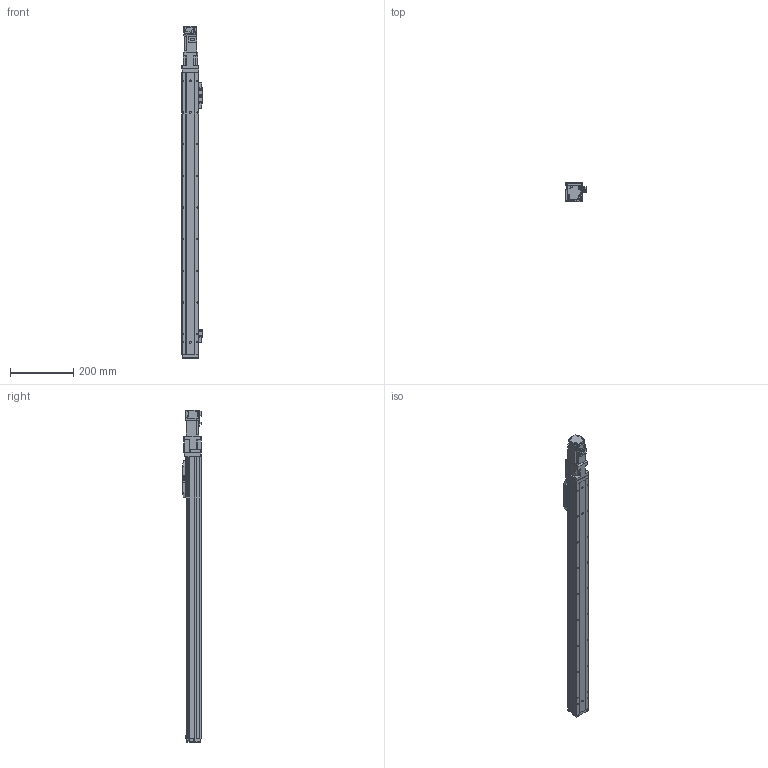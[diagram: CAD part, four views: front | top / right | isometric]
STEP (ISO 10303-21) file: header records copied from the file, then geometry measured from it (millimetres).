
FILE_DESCRIPTION (( 'STEP AP214' ), '1' );
FILE_NAME ('N_GRH5-750-BC-M10.step', '2025-03-14T09:34:22', ( '' ), ( '' ), 'SwSTEP 2.0', 'SolidWorks 2016', '' );
FILE_SCHEMA (( 'AUTOMOTIVE_DESIGN' ));
Length unit declared in the file: millimetre
Products named in the file (5): N_GRH5-GY-011^N_GRH5-750-BC-M10; N_GRH5-750-BC-M10; N_GRH5-BC-008^N_GRH5-750-BC-M10; HF-KP13_100W_Motor^N_GRH5-750-BC-M10; N_GRH5-GY-004^N_GRH5-750-BC-M10
Assembly tree (4 placements, depth 2):
  N_GRH5-750-BC-M10
    N_GRH5-GY-011^N_GRH5-750-BC-M10
    N_GRH5-GY-004^N_GRH5-750-BC-M10
    N_GRH5-BC-008^N_GRH5-750-BC-M10
    HF-KP13_100W_Motor^N_GRH5-750-BC-M10
Bounding box: 64.05 x 60.7 x 1047.9 mm (x, y, z)
Volume: 1638176.4 mm3; surface area: 444841.1 mm2
Topology: 4 solids, 5 shells, 964 faces, 2486 edges, 1583 vertices
Faces by surface type: plane 560, cylinder 344, cone 58, sphere 2
Entity records: 35950 total; most frequent: DIRECTION 5105, CARTESIAN_POINT 5076, ORIENTED_EDGE 4900, EDGE_CURVE 2450, AXIS2_PLACEMENT_3D 1702, VECTOR 1701, LINE 1701, VERTEX_POINT 1581
